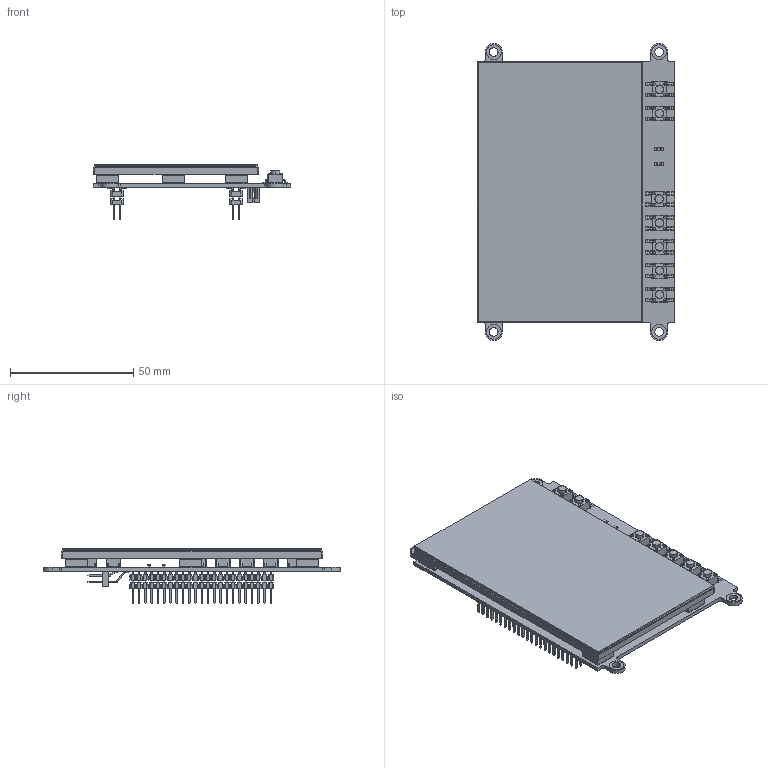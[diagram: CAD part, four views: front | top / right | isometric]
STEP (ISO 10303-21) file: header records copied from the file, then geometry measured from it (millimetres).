
FILE_DESCRIPTION (( 'STEP AP214' ), '1' );
FILE_NAME ('4DCAPE-43_simplestepmodel_R_1_11.STEP', '2013-07-26T00:05:34', ( '' ), ( '' ), 'SwSTEP 2.0', 'SolidWorks 2010', '' );
FILE_SCHEMA (( 'AUTOMOTIVE_DESIGN' ));
Length unit declared in the file: millimetre
Products named in the file (33): 4DCAPE-43-REV1.11_Outline; BottomComponents-4DCAPE-43; P1_A; P1_B; p1mkcd46gfya18080000b; P1MKCD46GFYA18080000B_1; P1MKCD46GFYA18080000B; P1MKCD46GFYA18080000BPIN; J1; Samtec-TSM-102-01-L-DH-A; TopComponents-4DCAPE-43; LED1; LED2; User_Library-led_0805LED0805_blue; T1; T2; T3; T4; T5; T6; T7; TE-FSM4JSMATR-TACT; ROHS; 4D-Logo; CE; 3mm-Sticky-Pad-9x9; uLCD43PT; uLCD-43PT-BASE; uLCD-43PT-LCDGLASS; uLCD-43PT-GLASS; uLCD-43PT-LCDBACK; uLCD-43PT-TOUCH; 4DCAPE-43_simplestepmodel_R_1_11
Assembly tree (89 placements, depth 5):
  4DCAPE-43_simplestepmodel_R_1_11
    BottomComponents-4DCAPE-43
      P1_B
        p1mkcd46gfya18080000b
          P1MKCD46GFYA18080000BPIN  x46
          P1MKCD46GFYA18080000B_1
          P1MKCD46GFYA18080000B
      P1_A
        p1mkcd46gfya18080000b
          P1MKCD46GFYA18080000BPIN  x46
          P1MKCD46GFYA18080000B_1
          P1MKCD46GFYA18080000B
      J1
        Samtec-TSM-102-01-L-DH-A
    3mm-Sticky-Pad-9x9  x5
    uLCD43PT
      uLCD-43PT-TOUCH
      uLCD-43PT-LCDBACK
      uLCD-43PT-LCDGLASS
      uLCD-43PT-GLASS
      uLCD-43PT-BASE
    CE
    4D-Logo
    4DCAPE-43-REV1.11_Outline
    ROHS
    TopComponents-4DCAPE-43
      T2
        TE-FSM4JSMATR-TACT
      T5
        TE-FSM4JSMATR-TACT
      T7
        TE-FSM4JSMATR-TACT
      LED2
        User_Library-led_0805LED0805_blue
      T4
        TE-FSM4JSMATR-TACT
      T1
        TE-FSM4JSMATR-TACT
      T6
        TE-FSM4JSMATR-TACT
      T3
        TE-FSM4JSMATR-TACT
      LED1
        User_Library-led_0805LED0805_blue
Bounding box: 80 x 120.39 x 22.44 mm (x, y, z)
Volume: 51500.9 mm3; surface area: 91478.1 mm2
Topology: 545 solids, 545 shells, 8744 faces, 20372 edges, 12828 vertices
Faces by surface type: plane 7985, cylinder 701, bspline 56, cone 2
Entity records: 165656 total; most frequent: CARTESIAN_POINT 24670, ORIENTED_EDGE 21466, DIRECTION 20949, EDGE_CURVE 10733, LINE 9995, VECTOR 9995, VERTEX_POINT 6898, AXIS2_PLACEMENT_3D 5477
